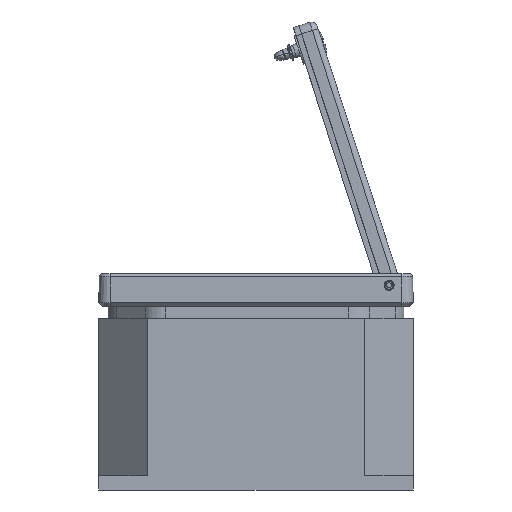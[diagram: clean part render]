
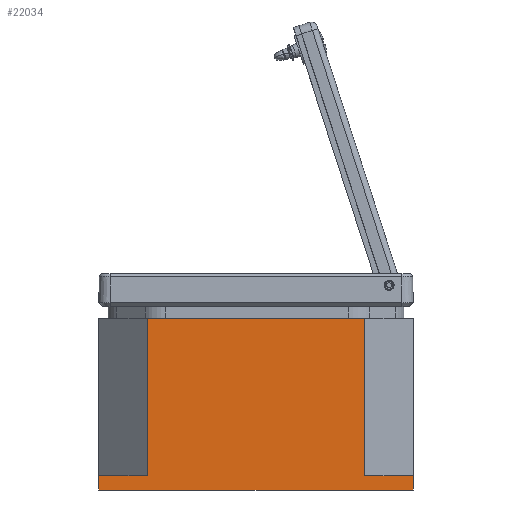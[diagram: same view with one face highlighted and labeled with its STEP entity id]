
A CAD part, left-side view. The second image highlights one B-rep face of the part: STEP entity #22034.
In plain terms, the highlighted planar face has unit normal (-1, 0, 0).
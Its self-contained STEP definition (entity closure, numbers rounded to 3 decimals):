
#1056=LINE('',#33040,#2814);
#1057=LINE('',#33042,#2815);
#1058=LINE('',#33044,#2816);
#1059=LINE('',#33046,#2817);
#1060=LINE('',#33048,#2818);
#1061=LINE('',#33050,#2819);
#1062=LINE('',#33052,#2820);
#1063=LINE('',#33053,#2821);
#2814=VECTOR('',#26035,1.);
#2815=VECTOR('',#26036,1.);
#2816=VECTOR('',#26037,1.);
#2817=VECTOR('',#26038,1.);
#2818=VECTOR('',#26039,1.);
#2819=VECTOR('',#26040,1.);
#2820=VECTOR('',#26041,1.);
#2821=VECTOR('',#26042,1.);
#4572=PLANE('',#23699);
#5221=FACE_OUTER_BOUND('',#6520,.T.);
#6520=EDGE_LOOP('',(#14510,#14511,#14512,#14513,#14514,#14515,#14516,#14517));
#9243=VERTEX_POINT('',#33038);
#9244=VERTEX_POINT('',#33039);
#9245=VERTEX_POINT('',#33041);
#9246=VERTEX_POINT('',#33043);
#9247=VERTEX_POINT('',#33045);
#9248=VERTEX_POINT('',#33047);
#9249=VERTEX_POINT('',#33049);
#9250=VERTEX_POINT('',#33051);
#11273=EDGE_CURVE('',#9243,#9244,#1056,.T.);
#11274=EDGE_CURVE('',#9245,#9243,#1057,.T.);
#11275=EDGE_CURVE('',#9245,#9246,#1058,.T.);
#11276=EDGE_CURVE('',#9246,#9247,#1059,.T.);
#11277=EDGE_CURVE('',#9248,#9247,#1060,.T.);
#11278=EDGE_CURVE('',#9249,#9248,#1061,.T.);
#11279=EDGE_CURVE('',#9250,#9249,#1062,.T.);
#11280=EDGE_CURVE('',#9244,#9250,#1063,.T.);
#14510=ORIENTED_EDGE('',*,*,#11273,.F.);
#14511=ORIENTED_EDGE('',*,*,#11274,.F.);
#14512=ORIENTED_EDGE('',*,*,#11275,.T.);
#14513=ORIENTED_EDGE('',*,*,#11276,.T.);
#14514=ORIENTED_EDGE('',*,*,#11277,.F.);
#14515=ORIENTED_EDGE('',*,*,#11278,.F.);
#14516=ORIENTED_EDGE('',*,*,#11279,.F.);
#14517=ORIENTED_EDGE('',*,*,#11280,.F.);
#22034=ADVANCED_FACE('',(#5221),#4572,.F.);
#23699=AXIS2_PLACEMENT_3D('',#33037,#26033,#26034);
#26033=DIRECTION('center_axis',(1.,0.,0.));
#26034=DIRECTION('ref_axis',(0.,1.,0.));
#26035=DIRECTION('',(0.,-1.,0.));
#26036=DIRECTION('',(0.,0.,1.));
#26037=DIRECTION('',(0.,-1.,0.));
#26038=DIRECTION('',(0.,0.,1.));
#26039=DIRECTION('',(0.,-1.,0.));
#26040=DIRECTION('',(0.,0.,-1.));
#26041=DIRECTION('',(0.,-1.,0.));
#26042=DIRECTION('',(0.,0.,1.));
#33037=CARTESIAN_POINT('Origin',(-47.5,55.,-60.));
#33038=CARTESIAN_POINT('',(-47.5,55.,-55.));
#33039=CARTESIAN_POINT('',(-47.5,38.,-55.));
#33040=CARTESIAN_POINT('',(-47.5,0.,-55.));
#33041=CARTESIAN_POINT('',(-47.5,55.,-60.));
#33042=CARTESIAN_POINT('',(-47.5,55.,-60.));
#33043=CARTESIAN_POINT('',(-47.5,-55.,-60.));
#33044=CARTESIAN_POINT('',(-47.5,55.,-60.));
#33045=CARTESIAN_POINT('',(-47.5,-55.,-55.));
#33046=CARTESIAN_POINT('',(-47.5,-55.,-60.));
#33047=CARTESIAN_POINT('',(-47.5,-38.,-55.));
#33048=CARTESIAN_POINT('',(-47.5,0.,-55.));
#33049=CARTESIAN_POINT('',(-47.5,-38.,0.));
#33050=CARTESIAN_POINT('',(-47.5,-38.,-60.));
#33051=CARTESIAN_POINT('',(-47.5,38.,0.));
#33052=CARTESIAN_POINT('',(-47.5,55.,0.));
#33053=CARTESIAN_POINT('',(-47.5,38.,-60.));
